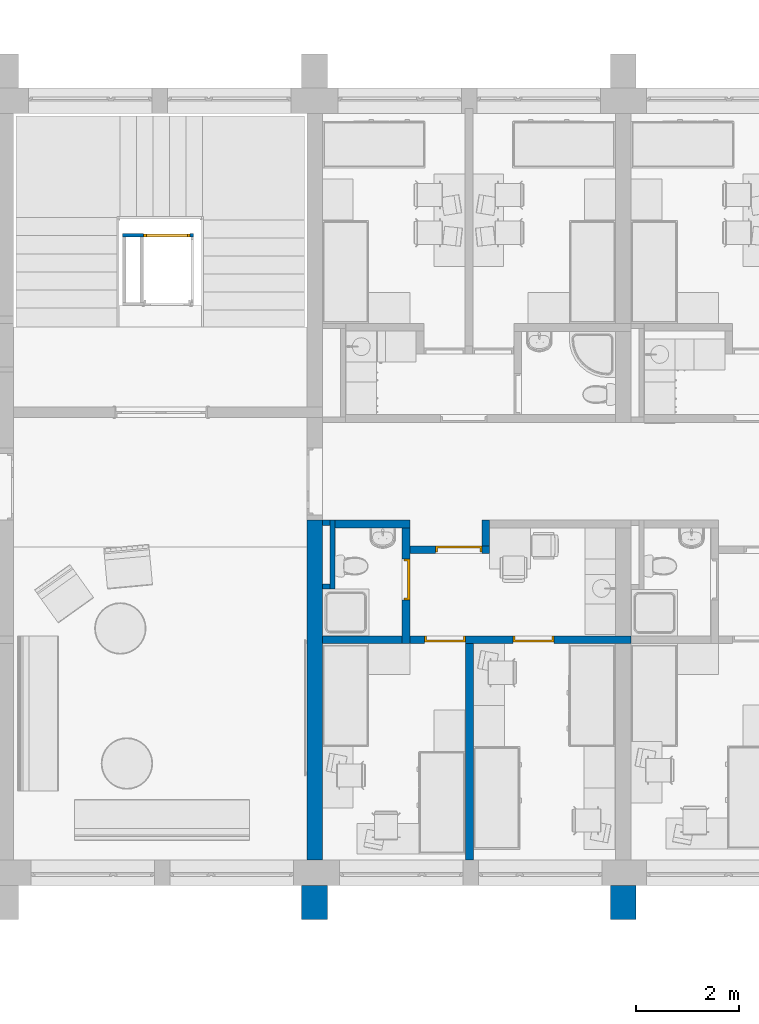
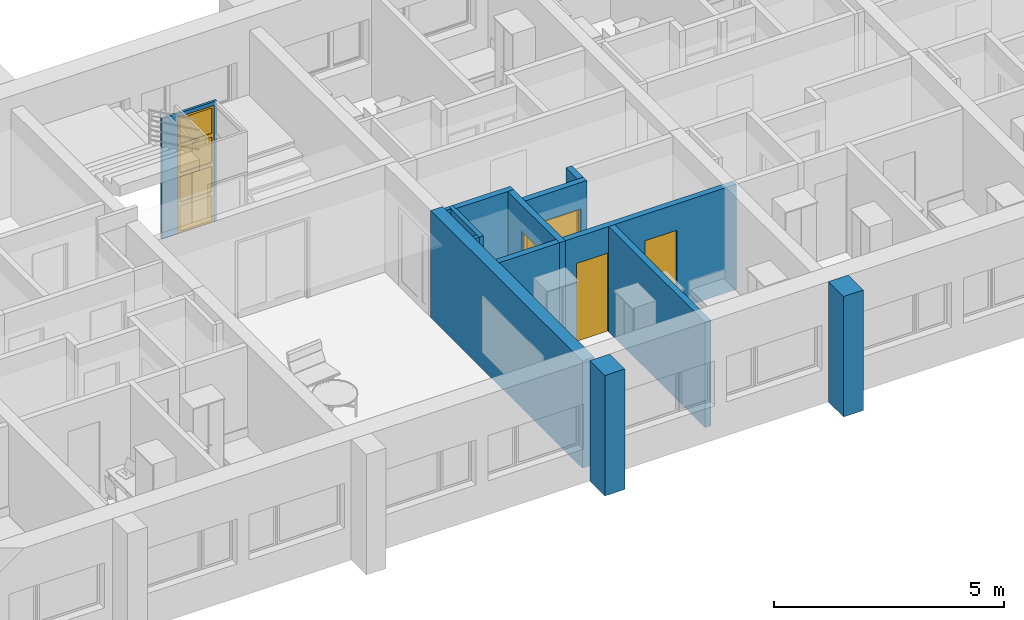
# One storey, part 14 of 165: 13 walls, 4 doors, 1 window, 5 openings.
"""IFC2X3 building model written with IfcOpenShell, lengths in millimetres."""

from ifc_helpers import new_model, entity, si_unit, converted_unit, money_unit, direction, frame, origin_with_axes, place, context, subcontext, project, spatial, polyline, outline, extrude, open_shell, faceted_brep, surface_model, source, transform, mapped, material, material_list, layer, layer_set, layer_usage, type_object, element, fill, save


model = new_model("IFC2X3")

# Units and contexts
model_context = context("Model", 3, precision=1e-05, world=origin_with_axes(), true_north=direction((0.0, 1.0)))
body_context = subcontext(model_context, "Body", "Model", "MODEL_VIEW")
ifc_project = project(units=[si_unit("LENGTHUNIT", "METRE", prefix="MILLI"), si_unit("AREAUNIT", "SQUARE_METRE"), si_unit("VOLUMEUNIT", "CUBIC_METRE"), converted_unit("PLANEANGLEUNIT", "DEGREE", entity("IfcPlaneAngleMeasure", 0.0174532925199), si_unit("PLANEANGLEUNIT", "RADIAN"), dimensions=[0, 0, 0, 0, 0, 0, 0]), si_unit("SOLIDANGLEUNIT", "STERADIAN"), money_unit("USD"), converted_unit("TIMEUNIT", "Year", entity("IfcTimeMeasure", 31556926.0), si_unit("TIMEUNIT", "SECOND"), dimensions=[0, 0, 0, 0, 0, 0, 0]), si_unit("MASSUNIT", "GRAM"), si_unit("THERMODYNAMICTEMPERATUREUNIT", "DEGREE_CELSIUS"), si_unit("LUMINOUSINTENSITYUNIT", "LUMEN")], contexts=[model_context])

# Site, building, storey
site_placement = place(None, origin_with_axes())
site = spatial("IfcSite", under=ifc_project, at=site_placement, Name="Site", CompositionType="ELEMENT")
building_placement = place(site_placement, origin_with_axes())
building = spatial("IfcBuilding", under=site, at=building_placement, Name="Building", CompositionType="ELEMENT")
storey_placement = place(building_placement, frame((0.0, 0.0, 6300.0), z_axis=(0.0, 0.0, 1.0), x_axis=(1.0, 0.0, 0.0)))
storey = spatial("IfcBuildingStorey", under=building, at=storey_placement, Name="4KORRUS", CompositionType="ELEMENT", Elevation=6300.0)

# Walls
ifc_material_1 = material(Name="Olemasolevad seinad tellis, uus viimistlus")
ifc_layer_1 = layer(ifc_material_1, 500.0, ventilated="UNKNOWN")
ifc_layer_set_1 = layer_set([ifc_layer_1], Name="Olemasolevad seinad tellis, uus viimistlus 500")
ifc_layer_usage_1 = layer_usage(ifc_layer_set_1, "AXIS2", "POSITIVE", -100.0)
wall_type_1 = type_object("IfcWallType", Name="Olemasolevad seinad tellis, uus viimistlus 500", PredefinedType="NOTDEFINED")
wall_1_placement = place(storey_placement, frame((9.70329668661, -20796.6419407, 0.0), z_axis=(0.0, 0.0, 1.0), x_axis=(0.0, 1.0, 0.0)))
element("IfcWallStandardCase", 1, at=wall_1_placement, inside=storey, type_object=wall_type_1, material=ifc_layer_usage_1, Name="VS1", ObjectType="VS1", context=body_context, shape_type="SweptSolid", body=[
    extrude(outline(polyline([(0.0, -100.0), (657.402041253, -100.0), (657.402041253, 400.0), (0.0, 400.0), (0.0, -100.0)])), origin_with_axes(), (0.0, 0.0, 1.0), 3200.0),
])
ifc_layer_usage_2 = layer_usage(ifc_layer_set_1, "AXIS2", "POSITIVE", -100.0)
wall_2_placement = place(storey_placement, frame((-5990.29670331, -20796.6419407, 0.0), z_axis=(0.0, 0.0, 1.0), x_axis=(0.0, 1.0, 0.0)))
element("IfcWallStandardCase", 2, at=wall_2_placement, inside=storey, type_object=wall_type_1, material=ifc_layer_usage_2, Name="VS1", ObjectType="VS1", context=body_context, shape_type="SweptSolid", body=[
    extrude(outline(polyline([(0.0, -100.0), (657.402041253, -100.0), (657.402041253, 400.0), (0.0, 400.0), (0.0, -100.0)])), origin_with_axes(), (0.0, 0.0, 1.0), 3200.0),
])
ifc_material_2 = material(Name="UmbKipsplaat")
ifc_layer_2 = layer(ifc_material_2, 13.0, ventilated="UNKNOWN")
ifc_layer_3 = layer(ifc_material_2, 13.0, ventilated="UNKNOWN")
ifc_material_3 = material(Name="SOOJUSTUS MINERAALVILL")
ifc_layer_4 = layer(ifc_material_3, 98.0, ventilated="UNKNOWN")
ifc_layer_5 = layer(ifc_material_2, 13.0, ventilated="UNKNOWN")
ifc_layer_6 = layer(ifc_material_2, 13.0, ventilated="UNKNOWN")
ifc_layer_set_2 = layer_set([ifc_layer_2, ifc_layer_3, ifc_layer_4, ifc_layer_5, ifc_layer_6], Name="kipssein150")
ifc_layer_usage_3 = layer_usage(ifc_layer_set_2, "AXIS2", "POSITIVE", -150.0)
wall_type_2 = type_object("IfcWallType", Name="kipssein150 150", PredefinedType="NOTDEFINED")
wall_3_placement = place(storey_placement, frame((-3204.00830795, -19639.2398994, 0.0), z_axis=(0.0, 0.0, 1.0), x_axis=(0.0, 1.0, 0.0)))
element("IfcWallStandardCase", 3, at=wall_3_placement, inside=storey, type_object=wall_type_2, material=ifc_layer_usage_3, Name="SS1", ObjectType="SS1", context=body_context, shape_type="SweptSolid", body=[
    extrude(outline(polyline([(0.0, -150.0), (4200.0, -150.0), (4200.0, 0.0), (0.0, 0.0), (0.0, -150.0)])), origin_with_axes(), (0.0, 0.0, 1.0), 2800.0),
])
ifc_layer_usage_4 = layer_usage(ifc_layer_set_2, "AXIS2", "POSITIVE", -150.0)
wall_4_placement = place(storey_placement, frame((-2740.44264288, -13039.5012458, 0.0), z_axis=(0.0, 0.0, 1.0), x_axis=(0.0, -1.0, 0.0)))
element("IfcWallStandardCase", 4, at=wall_4_placement, inside=storey, type_object=wall_type_2, material=ifc_layer_usage_4, Name="SS1", ObjectType="SS1", context=body_context, shape_type="SweptSolid", body=[
    extrude(outline(polyline([(0.0, -150.0), (500.212508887, -150.0), (500.212508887, 0.0), (0.0, 0.0), (0.0, -150.0)])), origin_with_axes(), (0.0, 0.0, 1.0), 2800.0),
])

# Wall, opening, door
ifc_layer_usage_5 = layer_usage(ifc_layer_set_2, "AXIS2", "POSITIVE", -150.0)
wall_5_placement = place(storey_placement, frame((-4290.10332226, -13539.7137547, 0.0), z_axis=(0.0, 0.0, 1.0), x_axis=(1.0, 0.0, 0.0)))
wall_5 = element("IfcWallStandardCase", 5, at=wall_5_placement, inside=storey, type_object=wall_type_2, material=ifc_layer_usage_5, Name="SS1", ObjectType="SS1", context=body_context, shape_type="SweptSolid", body=[
    extrude(outline(polyline([(0.0, -150.0), (1549.66067938, -150.0), (1549.66067938, 0.0), (0.0, 0.0), (0.0, -150.0)])), origin_with_axes(), (0.0, 0.0, 1.0), 2800.0),
])
opening_1_placement = place(wall_5_placement, frame((949.660679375, 0.0, 0.0), z_axis=(0.0, 0.0, 1.0), x_axis=(1.0, 0.0, 0.0)))
opening_1 = element("IfcOpeningElement", 6, at=opening_1_placement, cuts=wall_5, Name="SU2-5", context=body_context, shape_type="SweptSolid", body=[
    extrude(outline(polyline([(-450.0, -2100.0), (450.0, -2100.0), (450.0, 0.0), (-450.0, 0.0), (-450.0, -2100.0)])), frame((0.0, -150.0, 0.0), z_axis=(0.0, 1.0, 0.0), x_axis=(1.0, 0.0, 0.0)), (0.0, 0.0, 1.0), 450.0),
])
ifc_material_4 = material(Name="Background")
ifc_material_list = material_list([ifc_material_4])
door_style_1 = type_object("IfcDoorStyle", Name="Door 19", ConstructionType="NOTDEFINED", OperationType="SINGLE_SWING_RIGHT", ParameterTakesPrecedence=False, Sizeable=False)
shared_shape_1 = source(origin_with_axes(), body_context, "Body", "Brep", [
    faceted_brep([(-410.0, -40.0, 0.0), (-410.0, -40.0, 2060.0), (-410.0, -115.0, 2060.0), (-410.0, -115.0, 0.0), (-422.0, -40.0, 2060.0), (-422.0, -40.0, 0.0), (-422.0, 0.0, 2060.0), (-450.0, 0.0, 2060.0), (-450.0, -115.0, 2060.0), (-450.0, -115.0, 0.0), (-450.0, 0.0, 0.0), (-422.0, 0.0, 0.0)], [[[0, 1, 2, 3]], [[4, 1, 0, 5]], [[4, 6, 7, 8, 2, 1]], [[2, 8, 9, 3]], [[5, 0, 3, 9, 10, 11]], [[6, 4, 5, 11]], [[6, 11, 10, 7]], [[9, 8, 7, 10]]]),
    faceted_brep([(422.0, -40.0, 2060.0), (410.0, -40.0, 2060.0), (410.0, -115.0, 2060.0), (450.0, -115.0, 2060.0), (450.0, 0.0, 2060.0), (422.0, 0.0, 2060.0), (422.0, -40.0, 0.0), (410.0, -40.0, 0.0), (410.0, -115.0, 0.0), (450.0, -115.0, 0.0), (450.0, 0.0, 0.0), (422.0, 0.0, 0.0)], [[[0, 1, 2, 3, 4, 5]], [[1, 0, 6, 7]], [[1, 7, 8, 2]], [[2, 8, 9, 3]], [[3, 9, 10, 4]], [[11, 5, 4, 10]], [[0, 5, 11, 6]], [[6, 11, 10, 9, 8, 7]]]),
    faceted_brep([(-422.0, 0.0, 2072.0), (-422.0, 0.0, 2060.0), (-450.0, 0.0, 2060.0), (-450.0, 0.0, 2100.0), (450.0, 0.0, 2100.0), (450.0, 0.0, 2060.0), (422.0, 0.0, 2060.0), (422.0, 0.0, 2072.0), (-422.0, -40.0, 2072.0), (-422.0, -40.0, 2060.0), (-410.0, -40.0, 2060.0), (-410.0, -115.0, 2060.0), (-450.0, -115.0, 2060.0), (-450.0, -115.0, 2100.0), (450.0, -115.0, 2100.0), (450.0, -115.0, 2060.0), (422.0, -40.0, 2060.0), (410.0, -115.0, 2060.0), (410.0, -40.0, 2060.0), (422.0, -40.0, 2072.0)], [[[0, 1, 2, 3, 4, 5, 6, 7]], [[1, 0, 8, 9]], [[9, 10, 11, 12, 2, 1]], [[12, 13, 3, 2]], [[13, 14, 4, 3]], [[14, 15, 5, 4]], [[16, 6, 5, 15, 17, 18]], [[7, 6, 16, 19]], [[0, 7, 19, 8]], [[16, 18, 10, 9, 8, 19]], [[10, 18, 17, 11]], [[15, 14, 13, 12, 11, 17]]]),
    faceted_brep([(422.0, 0.0, 0.0), (422.0, -40.0, 0.0), (-422.0, -40.0, 0.0), (-422.0, 0.0, 0.0), (422.0, 0.0, 2072.0), (422.0, -40.0, 2072.0), (-422.0, -40.0, 2072.0), (-422.0, 0.0, 2072.0)], [[[0, 1, 2, 3]], [[4, 5, 1, 0]], [[1, 5, 6, 2]], [[3, 2, 6, 7]], [[0, 3, 7, 4]], [[7, 6, 5, 4]]]),
])
door_1_placement = place(opening_1_placement, frame((-450.0, 0.0, 0.0), z_axis=(0.0, 0.0, 1.0), x_axis=(1.0, 0.0, 0.0)))
door_1 = element("IfcDoor", 7, at=door_1_placement, inside=storey, type_object=door_style_1, material=ifc_material_list, Name="SU2-5", ObjectType="Korteri välisuks", OverallHeight=2100.0, OverallWidth=900.0, context=body_context, shape_type="MappedRepresentation", body=[
    mapped(shared_shape_1, transform((450.0, 0.0, 0.0))),
])
fill(opening_1, door_1)

# Wall, openings, doors
ifc_layer_usage_6 = layer_usage(ifc_layer_set_2, "AXIS2", "POSITIVE", 0.0)
wall_6_placement = place(storey_placement, frame((-5990.29670331, -15439.2398994, 0.0), z_axis=(0.0, 0.0, 1.0), x_axis=(1.0, 0.0, 0.0)))
wall_6 = element("IfcWallStandardCase", 8, at=wall_6_placement, inside=storey, type_object=wall_type_2, material=ifc_layer_usage_6, Name="SS1", ObjectType="SS1", context=body_context, shape_type="SweptSolid", body=[
    extrude(outline(polyline([(0.0, 0.0), (6000.0, 0.0), (6000.0, 150.0), (0.0, 150.0), (0.0, 0.0)])), origin_with_axes(), (0.0, 0.0, 1.0), 2800.0),
])
opening_2_placement = place(wall_6_placement, frame((4106.28839536, 0.0, 0.0), z_axis=(0.0, 0.0, 1.0), x_axis=(1.0, 0.0, 0.0)))
opening_2 = element("IfcOpeningElement", 9, at=opening_2_placement, cuts=wall_6, Name="SU3-4", context=body_context, shape_type="SweptSolid", body=[
    extrude(outline(polyline([(-400.0, 0.0), (400.0, 0.0), (400.0, 2100.0), (-400.0, 2100.0), (-400.0, 0.0)])), frame((0.0, -150.0, 0.0), z_axis=(0.0, 1.0, 0.0), x_axis=(-1.0, 0.0, 0.0)), (0.0, 0.0, 1.0), 450.0),
])
opening_3_placement = place(wall_6_placement, frame((2381.28839536, 0.0, 0.0), z_axis=(0.0, 0.0, 1.0), x_axis=(1.0, 0.0, 0.0)))
opening_3 = element("IfcOpeningElement", 10, at=opening_3_placement, cuts=wall_6, Name="SU3-5", context=body_context, shape_type="SweptSolid", body=[
    extrude(outline(polyline([(-400.0, 0.0), (400.0, 0.0), (400.0, 2100.0), (-400.0, 2100.0), (-400.0, 0.0)])), frame((0.0, -150.0, 0.0), z_axis=(0.0, -1.0, 0.0), x_axis=(1.0, 0.0, 0.0)), (0.0, 0.0, -1.0), 450.0),
])
door_style_2 = type_object("IfcDoorStyle", Name="Door 19", ConstructionType="NOTDEFINED", OperationType="SINGLE_SWING_RIGHT", ParameterTakesPrecedence=False, Sizeable=False)
shared_shape_2 = source(origin_with_axes(), body_context, "Body", "Brep", [
    faceted_brep([(-360.0, -75.0, 0.0), (-360.0, -75.0, 2060.0), (-360.0, -150.0, 2060.0), (-360.0, -150.0, 0.0), (-372.0, -75.0, 2060.0), (-372.0, -75.0, 0.0), (-372.0, -35.0, 2060.0), (-400.0, -35.0, 2060.0), (-400.0, -150.0, 2060.0), (-400.0, -150.0, 0.0), (-400.0, -35.0, 0.0), (-372.0, -35.0, 0.0)], [[[0, 1, 2, 3]], [[4, 1, 0, 5]], [[4, 6, 7, 8, 2, 1]], [[2, 8, 9, 3]], [[5, 0, 3, 9, 10, 11]], [[6, 4, 5, 11]], [[6, 11, 10, 7]], [[9, 8, 7, 10]]]),
    faceted_brep([(372.0, -75.0, 2060.0), (360.0, -75.0, 2060.0), (360.0, -150.0, 2060.0), (400.0, -150.0, 2060.0), (400.0, -35.0, 2060.0), (372.0, -35.0, 2060.0), (372.0, -75.0, 0.0), (360.0, -75.0, 0.0), (360.0, -150.0, 0.0), (400.0, -150.0, 0.0), (400.0, -35.0, 0.0), (372.0, -35.0, 0.0)], [[[0, 1, 2, 3, 4, 5]], [[1, 0, 6, 7]], [[1, 7, 8, 2]], [[2, 8, 9, 3]], [[3, 9, 10, 4]], [[11, 5, 4, 10]], [[0, 5, 11, 6]], [[6, 11, 10, 9, 8, 7]]]),
    faceted_brep([(-372.0, -35.0, 2072.0), (-372.0, -35.0, 2060.0), (-400.0, -35.0, 2060.0), (-400.0, -35.0, 2100.0), (400.0, -35.0, 2100.0), (400.0, -35.0, 2060.0), (372.0, -35.0, 2060.0), (372.0, -35.0, 2072.0), (-372.0, -75.0, 2072.0), (-372.0, -75.0, 2060.0), (-360.0, -75.0, 2060.0), (-360.0, -150.0, 2060.0), (-400.0, -150.0, 2060.0), (-400.0, -150.0, 2100.0), (400.0, -150.0, 2100.0), (400.0, -150.0, 2060.0), (372.0, -75.0, 2060.0), (360.0, -150.0, 2060.0), (360.0, -75.0, 2060.0), (372.0, -75.0, 2072.0)], [[[0, 1, 2, 3, 4, 5, 6, 7]], [[1, 0, 8, 9]], [[9, 10, 11, 12, 2, 1]], [[12, 13, 3, 2]], [[13, 14, 4, 3]], [[14, 15, 5, 4]], [[16, 6, 5, 15, 17, 18]], [[7, 6, 16, 19]], [[0, 7, 19, 8]], [[16, 18, 10, 9, 8, 19]], [[10, 18, 17, 11]], [[15, 14, 13, 12, 11, 17]]]),
    faceted_brep([(372.0, -35.0, 0.0), (372.0, -75.0, 0.0), (-372.0, -75.0, 0.0), (-372.0, -35.0, 0.0), (372.0, -35.0, 2072.0), (372.0, -75.0, 2072.0), (-372.0, -75.0, 2072.0), (-372.0, -35.0, 2072.0)], [[[0, 1, 2, 3]], [[4, 5, 1, 0]], [[1, 5, 6, 2]], [[3, 2, 6, 7]], [[0, 3, 7, 4]], [[7, 6, 5, 4]]]),
])
door_2_placement = place(opening_2_placement, frame((400.0, 0.0, 0.0), z_axis=(0.0, 0.0, 1.0), x_axis=(-1.0, 0.0, 0.0)))
door_2 = element("IfcDoor", 11, at=door_2_placement, inside=storey, type_object=door_style_2, material=ifc_material_list, Name="SU3-4", ObjectType="Toa uks", OverallHeight=2100.0, OverallWidth=800.0, context=body_context, shape_type="MappedRepresentation", body=[
    mapped(shared_shape_2, transform((400.0, 0.0, 0.0))),
])
fill(opening_2, door_2)
door_style_3 = type_object("IfcDoorStyle", Name="Door 19", ConstructionType="NOTDEFINED", OperationType="SINGLE_SWING_LEFT", ParameterTakesPrecedence=False, Sizeable=False)
shared_shape_3 = source(origin_with_axes(), body_context, "Body", "Brep", [
    faceted_brep([(360.0, -75.0, 0.0), (360.0, -150.0, 0.0), (360.0, -150.0, 2060.0), (360.0, -75.0, 2060.0), (372.0, -75.0, 0.0), (372.0, -35.0, 0.0), (400.0, -35.0, 0.0), (400.0, -150.0, 0.0), (400.0, -150.0, 2060.0), (372.0, -75.0, 2060.0), (400.0, -35.0, 2060.0), (372.0, -35.0, 2060.0)], [[[0, 1, 2, 3]], [[4, 5, 6, 7, 1, 0]], [[2, 1, 7, 8]], [[9, 3, 2, 8, 10, 11]], [[9, 4, 0, 3]], [[11, 5, 4, 9]], [[11, 10, 6, 5]], [[7, 6, 10, 8]]]),
    faceted_brep([(-372.0, -75.0, 2060.0), (-372.0, -35.0, 2060.0), (-400.0, -35.0, 2060.0), (-400.0, -150.0, 2060.0), (-360.0, -150.0, 2060.0), (-360.0, -75.0, 2060.0), (-372.0, -75.0, 0.0), (-372.0, -35.0, 0.0), (-400.0, -35.0, 0.0), (-400.0, -150.0, 0.0), (-360.0, -150.0, 0.0), (-360.0, -75.0, 0.0)], [[[0, 1, 2, 3, 4, 5]], [[0, 6, 7, 1]], [[7, 8, 2, 1]], [[3, 2, 8, 9]], [[4, 3, 9, 10]], [[5, 4, 10, 11]], [[5, 11, 6, 0]], [[6, 11, 10, 9, 8, 7]]]),
    faceted_brep([(372.0, -35.0, 2072.0), (-372.0, -35.0, 2072.0), (-372.0, -35.0, 2060.0), (-400.0, -35.0, 2060.0), (-400.0, -35.0, 2100.0), (400.0, -35.0, 2100.0), (400.0, -35.0, 2060.0), (372.0, -35.0, 2060.0), (372.0, -75.0, 2072.0), (-372.0, -75.0, 2072.0), (-372.0, -75.0, 2060.0), (-360.0, -75.0, 2060.0), (-360.0, -150.0, 2060.0), (-400.0, -150.0, 2060.0), (-400.0, -150.0, 2100.0), (400.0, -150.0, 2100.0), (400.0, -150.0, 2060.0), (372.0, -75.0, 2060.0), (360.0, -150.0, 2060.0), (360.0, -75.0, 2060.0)], [[[0, 1, 2, 3, 4, 5, 6, 7]], [[0, 8, 9, 1]], [[1, 9, 10, 2]], [[10, 11, 12, 13, 3, 2]], [[14, 4, 3, 13]], [[15, 5, 4, 14]], [[16, 6, 5, 15]], [[17, 7, 6, 16, 18, 19]], [[7, 17, 8, 0]], [[10, 9, 8, 17, 19, 11]], [[19, 18, 12, 11]], [[13, 12, 18, 16, 15, 14]]]),
    faceted_brep([(-372.0, -35.0, 0.0), (372.0, -35.0, 0.0), (372.0, -75.0, 0.0), (-372.0, -75.0, 0.0), (-372.0, -35.0, 2072.0), (372.0, -35.0, 2072.0), (372.0, -75.0, 2072.0), (-372.0, -75.0, 2072.0)], [[[0, 1, 2, 3]], [[0, 4, 5, 1]], [[1, 5, 6, 2]], [[3, 2, 6, 7]], [[4, 0, 3, 7]], [[5, 4, 7, 6]]]),
])
door_3_placement = place(opening_3_placement, frame((400.0, 0.0, 0.0), z_axis=(0.0, 0.0, 1.0), x_axis=(-1.0, 0.0, 0.0)))
door_3 = element("IfcDoor", 12, at=door_3_placement, inside=storey, type_object=door_style_3, material=ifc_material_list, Name="SU3-5", ObjectType="Toa uks", OverallHeight=2100.0, OverallWidth=800.0, context=body_context, shape_type="MappedRepresentation", body=[
    mapped(shared_shape_3, transform((400.0, 0.0, 0.0))),
])
fill(opening_3, door_3)

# Wall
ifc_layer_usage_7 = layer_usage(ifc_layer_set_2, "AXIS2", "POSITIVE", 0.0)
wall_7_placement = place(storey_placement, frame((-4290.10332226, -13039.631919, 0.0), z_axis=(0.0, 0.0, 1.0), x_axis=(-1.0, 0.0, 0.0)))
element("IfcWallStandardCase", 13, at=wall_7_placement, inside=storey, type_object=wall_type_2, material=ifc_layer_usage_7, Name="SS1", ObjectType="SS1", context=body_context, shape_type="SweptSolid", body=[
    extrude(outline(polyline([(0.0, 0.0), (1450.19338105, 0.0), (1450.19338105, 150.0), (0.0, 150.0), (0.0, 0.0)])), origin_with_axes(), (0.0, 0.0, 1.0), 2800.0),
])

# Wall, opening, door
ifc_layer_usage_8 = layer_usage(ifc_layer_set_2, "AXIS2", "POSITIVE", 0.0)
wall_8_placement = place(storey_placement, frame((-4290.10332226, -15439.2398994, 0.0), z_axis=(0.0, 0.0, 1.0), x_axis=(0.0, 1.0, 0.0)))
wall_8 = element("IfcWallStandardCase", 14, at=wall_8_placement, inside=storey, type_object=wall_type_2, material=ifc_layer_usage_8, Name="SS1", ObjectType="SS1", context=body_context, shape_type="SweptSolid", body=[
    extrude(outline(polyline([(0.0, 0.0), (2399.60798045, 0.0), (2399.60798045, 150.0), (0.0, 150.0), (0.0, 0.0)])), origin_with_axes(), (0.0, 0.0, 1.0), 2800.0),
])
opening_4_placement = place(wall_8_placement, frame((1249.52614474, 0.0, 0.0), z_axis=(0.0, 0.0, 1.0), x_axis=(1.0, 0.0, 0.0)))
opening_4 = element("IfcOpeningElement", 15, at=opening_4_placement, cuts=wall_8, Name="SU3-3", context=body_context, shape_type="SweptSolid", body=[
    extrude(outline(polyline([(-400.0, -2100.0), (400.0, -2100.0), (400.0, 0.0), (-400.0, 0.0), (-400.0, -2100.0)])), frame((0.0, 150.0, 0.0), z_axis=(0.0, 1.0, 0.0), x_axis=(1.0, 0.0, 0.0)), (0.0, 0.0, -1.0), 450.0),
])
door_style_4 = type_object("IfcDoorStyle", Name="Door 19", ConstructionType="NOTDEFINED", OperationType="SINGLE_SWING_LEFT", ParameterTakesPrecedence=False, Sizeable=False)
shared_shape_4 = source(origin_with_axes(), body_context, "Body", "Brep", [
    faceted_brep([(360.0, -40.0, 0.0), (360.0, -115.0, 0.0), (360.0, -115.0, 2060.0), (360.0, -40.0, 2060.0), (372.0, -40.0, 0.0), (372.0, 0.0, 0.0), (400.0, 0.0, 0.0), (400.0, -115.0, 0.0), (400.0, -115.0, 2060.0), (372.0, -40.0, 2060.0), (400.0, 0.0, 2060.0), (372.0, 0.0, 2060.0)], [[[0, 1, 2, 3]], [[4, 5, 6, 7, 1, 0]], [[2, 1, 7, 8]], [[9, 3, 2, 8, 10, 11]], [[9, 4, 0, 3]], [[11, 5, 4, 9]], [[11, 10, 6, 5]], [[7, 6, 10, 8]]]),
    faceted_brep([(-372.0, -40.0, 2060.0), (-372.0, 0.0, 2060.0), (-400.0, 0.0, 2060.0), (-400.0, -115.0, 2060.0), (-360.0, -115.0, 2060.0), (-360.0, -40.0, 2060.0), (-372.0, -40.0, 0.0), (-372.0, 0.0, 0.0), (-400.0, 0.0, 0.0), (-400.0, -115.0, 0.0), (-360.0, -115.0, 0.0), (-360.0, -40.0, 0.0)], [[[0, 1, 2, 3, 4, 5]], [[0, 6, 7, 1]], [[7, 8, 2, 1]], [[3, 2, 8, 9]], [[4, 3, 9, 10]], [[5, 4, 10, 11]], [[5, 11, 6, 0]], [[6, 11, 10, 9, 8, 7]]]),
    faceted_brep([(372.0, 0.0, 2072.0), (-372.0, 0.0, 2072.0), (-372.0, 0.0, 2060.0), (-400.0, 0.0, 2060.0), (-400.0, 0.0, 2100.0), (400.0, 0.0, 2100.0), (400.0, 0.0, 2060.0), (372.0, 0.0, 2060.0), (372.0, -40.0, 2072.0), (-372.0, -40.0, 2072.0), (-372.0, -40.0, 2060.0), (-360.0, -40.0, 2060.0), (-360.0, -115.0, 2060.0), (-400.0, -115.0, 2060.0), (-400.0, -115.0, 2100.0), (400.0, -115.0, 2100.0), (400.0, -115.0, 2060.0), (372.0, -40.0, 2060.0), (360.0, -115.0, 2060.0), (360.0, -40.0, 2060.0)], [[[0, 1, 2, 3, 4, 5, 6, 7]], [[0, 8, 9, 1]], [[1, 9, 10, 2]], [[10, 11, 12, 13, 3, 2]], [[14, 4, 3, 13]], [[15, 5, 4, 14]], [[16, 6, 5, 15]], [[17, 7, 6, 16, 18, 19]], [[7, 17, 8, 0]], [[10, 9, 8, 17, 19, 11]], [[19, 18, 12, 11]], [[13, 12, 18, 16, 15, 14]]]),
    faceted_brep([(-372.0, 0.0, 0.0), (372.0, 0.0, 0.0), (372.0, -40.0, 0.0), (-372.0, -40.0, 0.0), (-372.0, 0.0, 2072.0), (372.0, 0.0, 2072.0), (372.0, -40.0, 2072.0), (-372.0, -40.0, 2072.0)], [[[0, 1, 2, 3]], [[0, 4, 5, 1]], [[1, 5, 6, 2]], [[3, 2, 6, 7]], [[4, 0, 3, 7]], [[5, 4, 7, 6]]]),
])
door_4_placement = place(opening_4_placement, frame((400.0, 0.0, 0.0), z_axis=(0.0, 0.0, 1.0), x_axis=(-1.0, 0.0, 0.0)))
door_4 = element("IfcDoor", 16, at=door_4_placement, inside=storey, type_object=door_style_4, material=ifc_material_list, Name="SU3-3", ObjectType="WC-uks", OverallHeight=2100.0, OverallWidth=800.0, context=body_context, shape_type="MappedRepresentation", body=[
    mapped(shared_shape_4, transform((400.0, 0.0, 0.0))),
])
fill(opening_4, door_4)

# Walls
ifc_material_5 = material(Name="Olemasolevad seinad tellis, uus viimistlus")
ifc_layer_7 = layer(ifc_material_5, 300.0, ventilated="UNKNOWN")
ifc_layer_set_3 = layer_set([ifc_layer_7], Name="Olemasolevad seinad tellis, uus viimistlus  300")
ifc_layer_usage_9 = layer_usage(ifc_layer_set_3, "AXIS2", "POSITIVE", 0.0)
wall_type_3 = type_object("IfcWallType", Name="Olemasolevad seinad tellis, uus viimistlus  300", PredefinedType="NOTDEFINED")
wall_9_placement = place(storey_placement, frame((-5990.29670331, -19639.2398994, 0.0), z_axis=(0.0, 0.0, 1.0), x_axis=(0.0, 1.0, 0.0)))
element("IfcWallStandardCase", 17, at=wall_9_placement, inside=storey, type_object=wall_type_3, material=ifc_layer_usage_9, Name="KS1", ObjectType="KS1", context=body_context, shape_type="SweptSolid", body=[
    extrude(outline(polyline([(0.0, 0.0), (6602.86932682, 0.0), (6602.86932682, 300.0), (0.0, 300.0), (0.0, 0.0)])), origin_with_axes(), (0.0, 0.0, 1.0), 2850.0),
])
ifc_material_6 = material(Name="krohv")
ifc_layer_8 = layer(ifc_material_6, 2.0, ventilated="UNKNOWN")
ifc_layer_9 = layer(ifc_material_6, 10.0, ventilated="UNKNOWN")
ifc_material_7 = material(Name="Kergplokk")
ifc_layer_10 = layer(ifc_material_7, 76.0, ventilated="UNKNOWN")
ifc_layer_11 = layer(ifc_material_6, 10.0, ventilated="UNKNOWN")
ifc_layer_12 = layer(ifc_material_6, 2.0, ventilated="UNKNOWN")
ifc_layer_set_4 = layer_set([ifc_layer_8, ifc_layer_9, ifc_layer_10, ifc_layer_11, ifc_layer_12], Name="Kergplokk Bauroc 100")
ifc_layer_usage_10 = layer_usage(ifc_layer_set_4, "AXIS2", "POSITIVE", 0.0)
wall_type_4 = type_object("IfcWallType", Name="Kergplokk Bauroc 100 100", PredefinedType="NOTDEFINED")
wall_10_placement = place(storey_placement, frame((-5990.29670331, -14380.4716262, 0.0), z_axis=(0.0, 0.0, 1.0), x_axis=(1.0, 0.0, 0.0)))
element("IfcWallStandardCase", 18, at=wall_10_placement, inside=storey, type_object=wall_type_4, material=ifc_layer_usage_10, Name="SS2", ObjectType="SS2", context=body_context, shape_type="SweptSolid", body=[
    extrude(outline(polyline([(0.0, 0.0), (150.0, 0.0), (150.0, 100.0), (0.0, 100.0), (0.0, 0.0)])), origin_with_axes(), (0.0, 0.0, 1.0), 2800.0),
])
ifc_layer_usage_11 = layer_usage(ifc_layer_set_4, "AXIS2", "POSITIVE", 0.0)
wall_11_placement = place(storey_placement, frame((-5840.29670331, -13039.3705726, 0.0), z_axis=(0.0, 0.0, 1.0), x_axis=(0.0, -1.0, 0.0)))
element("IfcWallStandardCase", 19, at=wall_11_placement, inside=storey, type_object=wall_type_4, material=ifc_layer_usage_11, Name="SS2", ObjectType="SS2", context=body_context, shape_type="SweptSolid", body=[
    extrude(outline(polyline([(0.0, 0.0), (1341.10105359, 0.0), (1341.10105359, 100.0), (0.0, 100.0), (0.0, 0.0)])), origin_with_axes(), (0.0, 0.0, 1.0), 2800.0),
])
ifc_layer_usage_12 = layer_usage(ifc_layer_set_4, "AXIS2", "POSITIVE", 0.0)
wall_12_placement = place(storey_placement, frame((-5840.29670331, -13039.631919, 0.0), z_axis=(0.0, 0.0, 1.0), x_axis=(-1.0, 0.0, 0.0)))
element("IfcWallStandardCase", 20, at=wall_12_placement, inside=storey, type_object=wall_type_4, material=ifc_layer_usage_12, Name="SS2", ObjectType="SS2", context=body_context, shape_type="SweptSolid", body=[
    extrude(outline(polyline([(0.0, 0.0), (150.0, 0.0), (150.0, 100.0), (0.0, 100.0), (0.0, 0.0)])), origin_with_axes(), (0.0, 0.0, 1.0), 2800.0),
])

# Wall, opening, window
ifc_material_8 = material(Name="Terasprofiil")
ifc_layer_13 = layer(ifc_material_8, 60.0, ventilated="UNKNOWN")
ifc_layer_set_5 = layer_set([ifc_layer_13], Name="Terasprofiil 60")
ifc_layer_usage_13 = layer_usage(ifc_layer_set_5, "AXIS2", "POSITIVE", 0.0)
wall_type_5 = type_object("IfcWallType", Name="Terasprofiil 60", PredefinedType="NOTDEFINED")
wall_13_placement = place(storey_placement, frame((-8491.93119318, -7470.64352695, 0.0), z_axis=(0.0, 0.0, 1.0), x_axis=(-1.0, 0.0, 0.0)))
wall_13 = element("IfcWallStandardCase", 21, at=wall_13_placement, inside=storey, type_object=wall_type_5, material=ifc_layer_usage_13, Name="Lifti sein", ObjectType="Lifti sein", context=body_context, shape_type="SweptSolid", body=[
    extrude(outline(polyline([(0.0, 0.0), (1377.47535316, 0.0), (1377.47535316, 60.0), (0.0, 60.0), (0.0, 0.0)])), origin_with_axes(), (0.0, 0.0, 1.0), 3200.0),
])
opening_5_placement = place(wall_13_placement, frame((518.737676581, 0.0, 0.0), z_axis=(0.0, 0.0, 1.0), x_axis=(1.0, 0.0, 0.0)))
opening_5 = element("IfcOpeningElement", 22, at=opening_5_placement, cuts=wall_13, Name="Lifti klaassein", context=body_context, shape_type="SweptSolid", body=[
    extrude(outline(polyline([(-450.0, 0.0), (450.0, 0.0), (450.0, 3100.0), (-450.0, 3100.0), (-450.0, 0.0)])), frame((0.0, -60.0, 0.0), z_axis=(0.0, 1.0, 0.0), x_axis=(-1.0, 0.0, 0.0)), (0.0, 0.0, 1.0), 180.0),
])
window_style = type_object("IfcWindowStyle", Name="Vertical Multi-Sash Window 19", ConstructionType="NOTDEFINED", OperationType="USERDEFINED", ParameterTakesPrecedence=False, Sizeable=False)
shared_shape_5 = source(origin_with_axes(), body_context, "Body", "SurfaceModel", [
    faceted_brep([(-400.0, -60.0, 3050.0), (-400.0, -10.0, 3050.0), (-450.0, -10.0, 3050.0), (-450.0, -60.0, 3050.0), (-400.0, -60.0, 2375.0), (-400.0, -10.0, 2375.0), (-400.0, -10.0, 2275.0), (-400.0, -10.0, 1600.0), (-400.0, -10.0, 1500.0), (-400.0, -10.0, 825.0), (-400.0, -10.0, 725.0), (-400.0, -10.0, 50.0), (-450.0, -10.0, 50.0), (-450.0, -60.0, 50.0), (-400.0, -60.0, 50.0), (-400.0, -60.0, 725.0), (-400.0, -60.0, 825.0), (-400.0, -60.0, 1500.0), (-400.0, -60.0, 1600.0), (-400.0, -60.0, 2275.0)], [[[0, 1, 2, 3]], [[4, 5, 1, 0]], [[1, 5, 6, 7, 8, 9, 10, 11, 12, 2]], [[3, 2, 12, 13]], [[0, 3, 13, 14, 15, 16, 17, 18, 19, 4]], [[19, 6, 5, 4]], [[18, 7, 6, 19]], [[17, 8, 7, 18]], [[16, 9, 8, 17]], [[15, 10, 9, 16]], [[14, 11, 10, 15]], [[13, 12, 11, 14]]]),
    faceted_brep([(400.0, -60.0, 2375.0), (400.0, -10.0, 2375.0), (400.0, -10.0, 2275.0), (400.0, -60.0, 2275.0), (400.0, -60.0, 3050.0), (400.0, -10.0, 3050.0), (450.0, -10.0, 3050.0), (450.0, -10.0, 50.0), (400.0, -10.0, 50.0), (400.0, -10.0, 725.0), (400.0, -10.0, 825.0), (400.0, -10.0, 1500.0), (400.0, -10.0, 1600.0), (400.0, -60.0, 1600.0), (400.0, -60.0, 1500.0), (400.0, -60.0, 825.0), (400.0, -60.0, 725.0), (400.0, -60.0, 50.0), (450.0, -60.0, 50.0), (450.0, -60.0, 3050.0)], [[[0, 1, 2, 3]], [[4, 5, 1, 0]], [[1, 5, 6, 7, 8, 9, 10, 11, 12, 2]], [[3, 2, 12, 13]], [[0, 3, 13, 14, 15, 16, 17, 18, 19, 4]], [[19, 6, 5, 4]], [[18, 7, 6, 19]], [[17, 8, 7, 18]], [[16, 9, 8, 17]], [[15, 10, 9, 16]], [[14, 11, 10, 15]], [[13, 12, 11, 14]]]),
    faceted_brep([(400.0, -60.0, 3050.0), (400.0, -10.0, 3050.0), (450.0, -10.0, 3050.0), (450.0, -60.0, 3050.0), (-400.0, -60.0, 3050.0), (-400.0, -10.0, 3050.0), (-450.0, -10.0, 3050.0), (-450.0, -10.0, 3100.0), (450.0, -10.0, 3100.0), (450.0, -60.0, 3100.0), (-450.0, -60.0, 3100.0), (-450.0, -60.0, 3050.0)], [[[0, 1, 2, 3]], [[4, 5, 1, 0]], [[1, 5, 6, 7, 8, 2]], [[3, 2, 8, 9]], [[0, 3, 9, 10, 11, 4]], [[11, 6, 5, 4]], [[10, 7, 6, 11]], [[9, 8, 7, 10]]]),
    faceted_brep([(-400.0, -60.0, 50.0), (-400.0, -10.0, 50.0), (-450.0, -10.0, 50.0), (-450.0, -60.0, 50.0), (400.0, -60.0, 50.0), (400.0, -10.0, 50.0), (450.0, -10.0, 50.0), (450.0, -10.0, 0.0), (-450.0, -10.0, 0.0), (-450.0, -60.0, 0.0), (450.0, -60.0, 0.0), (450.0, -60.0, 50.0)], [[[0, 1, 2, 3]], [[4, 5, 1, 0]], [[1, 5, 6, 7, 8, 2]], [[3, 2, 8, 9]], [[0, 3, 9, 10, 11, 4]], [[11, 6, 5, 4]], [[10, 7, 6, 11]], [[9, 8, 7, 10]]]),
    faceted_brep([(400.0, -60.0, 825.0), (400.0, -10.0, 825.0), (-400.0, -10.0, 825.0), (-400.0, -60.0, 825.0), (400.0, -60.0, 725.0), (400.0, -10.0, 725.0), (-400.0, -10.0, 725.0), (-400.0, -60.0, 725.0)], [[[0, 1, 2, 3]], [[4, 5, 1, 0]], [[1, 5, 6, 2]], [[3, 2, 6, 7]], [[0, 3, 7, 4]], [[7, 6, 5, 4]]]),
    faceted_brep([(400.0, -60.0, 1600.0), (400.0, -10.0, 1600.0), (-400.0, -10.0, 1600.0), (-400.0, -60.0, 1600.0), (400.0, -60.0, 1500.0), (400.0, -10.0, 1500.0), (-400.0, -10.0, 1500.0), (-400.0, -60.0, 1500.0)], [[[0, 1, 2, 3]], [[4, 5, 1, 0]], [[1, 5, 6, 2]], [[3, 2, 6, 7]], [[0, 3, 7, 4]], [[7, 6, 5, 4]]]),
    faceted_brep([(400.0, -60.0, 2375.0), (400.0, -10.0, 2375.0), (-400.0, -10.0, 2375.0), (-400.0, -60.0, 2375.0), (400.0, -60.0, 2275.0), (400.0, -10.0, 2275.0), (-400.0, -10.0, 2275.0), (-400.0, -60.0, 2275.0)], [[[0, 1, 2, 3]], [[4, 5, 1, 0]], [[1, 5, 6, 2]], [[3, 2, 6, 7]], [[0, 3, 7, 4]], [[7, 6, 5, 4]]]),
    surface_model("IfcShellBasedSurfaceModel", [(-400.0, -45.0, 50.0), (400.0, -45.0, 50.0), (400.0, -45.0, 725.0), (-400.0, -45.0, 725.0)], [open_shell([[[0, 1, 2, 3]]])]),
    surface_model("IfcShellBasedSurfaceModel", [(-400.0, -25.0, 50.0), (-400.0, -25.0, 725.0), (400.0, -25.0, 725.0), (400.0, -25.0, 50.0)], [open_shell([[[0, 1, 2, 3]]])]),
    surface_model("IfcShellBasedSurfaceModel", [(-400.0, -45.0, 825.0), (400.0, -45.0, 825.0), (400.0, -45.0, 1500.0), (-400.0, -45.0, 1500.0)], [open_shell([[[0, 1, 2, 3]]])]),
    surface_model("IfcShellBasedSurfaceModel", [(-400.0, -25.0, 825.0), (-400.0, -25.0, 1500.0), (400.0, -25.0, 1500.0), (400.0, -25.0, 825.0)], [open_shell([[[0, 1, 2, 3]]])]),
    surface_model("IfcShellBasedSurfaceModel", [(-400.0, -45.0, 1600.0), (400.0, -45.0, 1600.0), (400.0, -45.0, 2275.0), (-400.0, -45.0, 2275.0)], [open_shell([[[0, 1, 2, 3]]])]),
    surface_model("IfcShellBasedSurfaceModel", [(-400.0, -25.0, 1600.0), (-400.0, -25.0, 2275.0), (400.0, -25.0, 2275.0), (400.0, -25.0, 1600.0)], [open_shell([[[0, 1, 2, 3]]])]),
    surface_model("IfcShellBasedSurfaceModel", [(-400.0, -45.0, 2375.0), (400.0, -45.0, 2375.0), (400.0, -45.0, 3050.0), (-400.0, -45.0, 3050.0)], [open_shell([[[0, 1, 2, 3]]])]),
    surface_model("IfcShellBasedSurfaceModel", [(-400.0, -25.0, 2375.0), (-400.0, -25.0, 3050.0), (400.0, -25.0, 3050.0), (400.0, -25.0, 2375.0)], [open_shell([[[0, 1, 2, 3]]])]),
])
window_placement = place(opening_5_placement, frame((450.0, 0.0, 0.0), z_axis=(0.0, 0.0, 1.0), x_axis=(-1.0, 0.0, 0.0)))
window = element("IfcWindow", 23, at=window_placement, inside=storey, type_object=window_style, material=ifc_material_list, Name="Lifti klaassein", ObjectType="WINDOW", OverallHeight=3100.0, OverallWidth=900.0, context=body_context, shape_type="MappedRepresentation", body=[
    mapped(shared_shape_5, transform((450.0, 0.0, 0.0))),
])
fill(opening_5, window)

save(model, "model.ifc")
